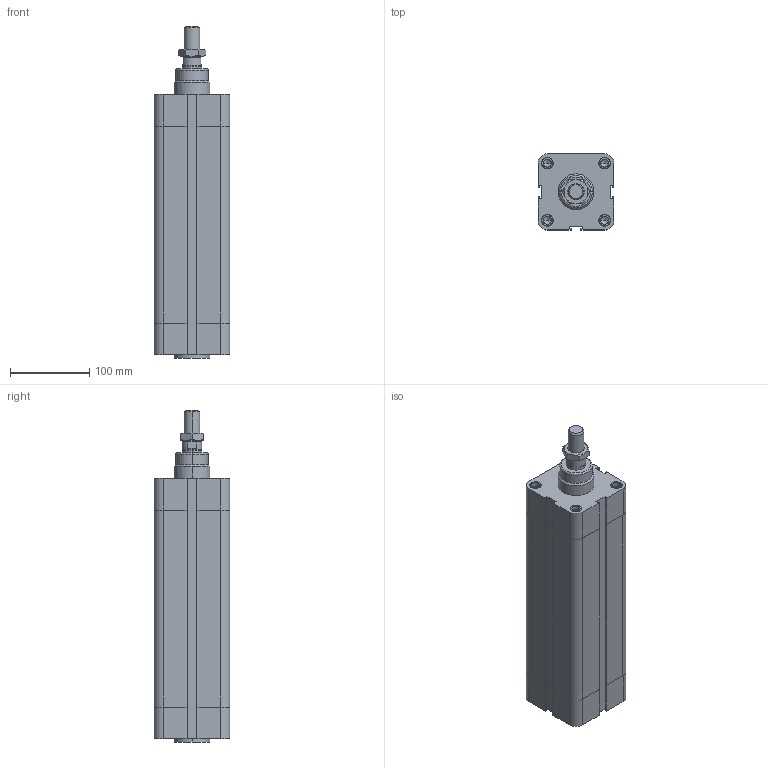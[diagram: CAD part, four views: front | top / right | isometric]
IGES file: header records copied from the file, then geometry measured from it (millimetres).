
Global section: file name: No Iges File Name specified; native system: AutoDesk Inventor R6.1; preprocessor: AutoDesk Inventor Iges Exporter R6.1; author: No Author specified; organization: No Organization specified; date: 20040107.171229; units: millimetre
Bounding box: 95.5 x 95.5 x 418 mm (x, y, z)
Volume: 2931391.6 mm3; surface area: 211866.8 mm2
Topology: 3 solids, 3 shells, 244 faces, 570 edges, 356 vertices
Faces by surface type: plane 83, bspline 67, cylinder 34, revolution 34, cone 24, torus 2
